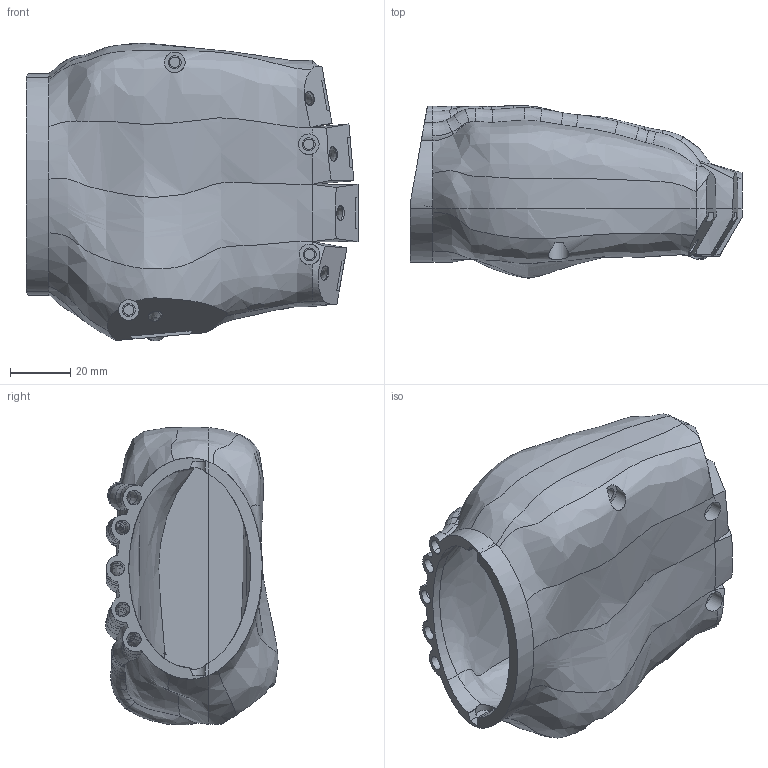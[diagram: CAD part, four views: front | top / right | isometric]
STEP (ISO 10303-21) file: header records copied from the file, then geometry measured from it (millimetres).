
FILE_DESCRIPTION(/* description */ (''),/* implementation_level */ '2;1');
FILE_NAME(/* name */ 'C:/Users/Ryan/Documents/AIO Robotics/CAD Files/Hand v4 v18.step',/* time_stamp */ '2017-02-04T20:42:31-08:00',/* author */ (''),/* organization */ (''),/* preprocessor_version */ 'ST-DEVELOPER v16.5',/* originating_system */ 'Autodesk Translation Framework v5.2.0.2920',/* authorisation */ '');
FILE_SCHEMA (('AUTOMOTIVE_DESIGN { 1 0 10303 214 3 1 1 }'));
Length unit declared in the file: inch
Products named in the file (1): Hand v4 v18
Bounding box: 110.49 x 57.36 x 99.06 mm (x, y, z)
Volume: 142349.2 mm3; surface area: 65490.9 mm2
Topology: 2 solids, 2 shells, 403 faces, 1194 edges, 796 vertices
Faces by surface type: bspline 297, plane 78, cylinder 28
Full cylindrical faces by diameter (mm): 3.429 x4, 4.318 x4, 4.826 x1, 6.858 x3
Entity records: 32173 total; most frequent: CARTESIAN_POINT 22878, ORIENTED_EDGE 2354, DIRECTION 1347, EDGE_CURVE 1177, VERTEX_POINT 792, AXIS2_PLACEMENT_3D 579, B_SPLINE_CURVE_WITH_KNOTS 496, EDGE_LOOP 451
